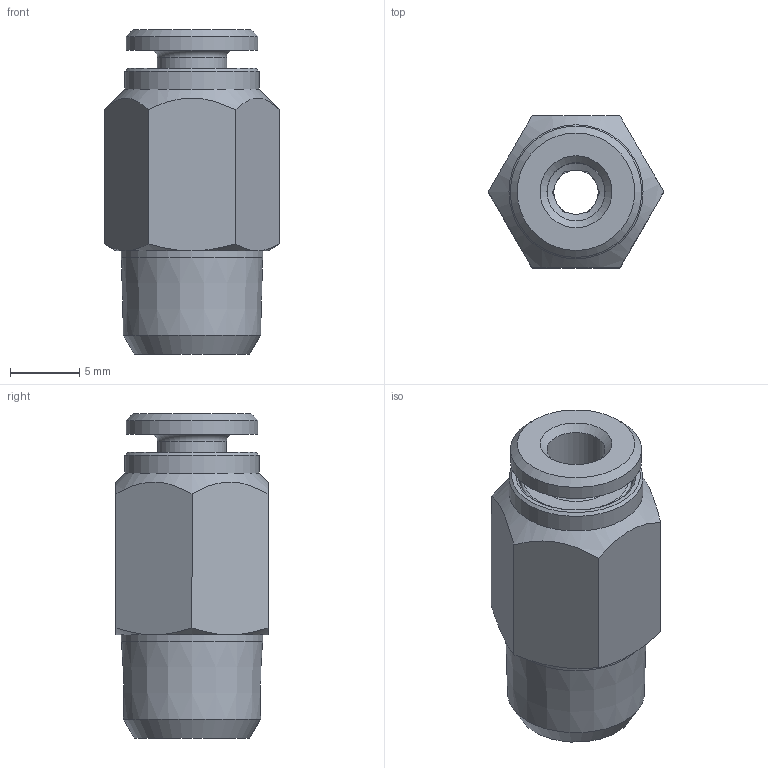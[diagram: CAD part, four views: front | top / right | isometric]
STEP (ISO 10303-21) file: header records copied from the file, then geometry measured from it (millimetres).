
FILE_DESCRIPTION(/* description */ (''),/* implementation_level */ '2;1');
FILE_NAME(/* name */ '9911_0701_0442_HSV-Gerade',/* time_stamp */ '2017-05-04T08:16:52+02:00',/* author */ (''),/* organization */ (''),/* preprocessor_version */ 'ST-DEVELOPER v16.5',/* originating_system */ 'HiCAD 2016 2102.1 Build 498',/* authorisation */ '');
FILE_SCHEMA (('AUTOMOTIVE_DESIGN { 1 0 10303 214 1 1 1 1 }'));
Length unit declared in the file: millimetre
Products named in the file (3): Root; RIVOLUZIONE_0; ONLINE_DR4_HSV_26.11.15
Assembly tree (2 placements, depth 2):
  Root
    RIVOLUZIONE_0
    ONLINE_DR4_HSV_26.11.15
Bounding box: 12.7 x 11 x 23.5 mm (x, y, z)
Volume: 1529.8 mm3; surface area: 1812.6 mm2
Topology: 2 solids, 2 shells, 64 faces, 145 edges, 90 vertices
Faces by surface type: plane 33, cone 18, cylinder 10, torus 3
Full cylindrical faces by diameter (mm): 3.2 x1, 4.2 x2, 5 x1, 7.3 x1, 8 x1, 8.3 x1, 9.5 x1, 9.7 x1, 10.219 x1
Entity records: 2876 total; most frequent: DIRECTION 332, CARTESIAN_POINT 270, PRESENTATION_STYLE_ASSIGNMENT 234, COLOUR_RGB 234, DRAUGHTING_PRE_DEFINED_CURVE_FONT 232, CURVE_STYLE 232, OVER_RIDING_STYLED_ITEM 232, ORIENTED_EDGE 232
